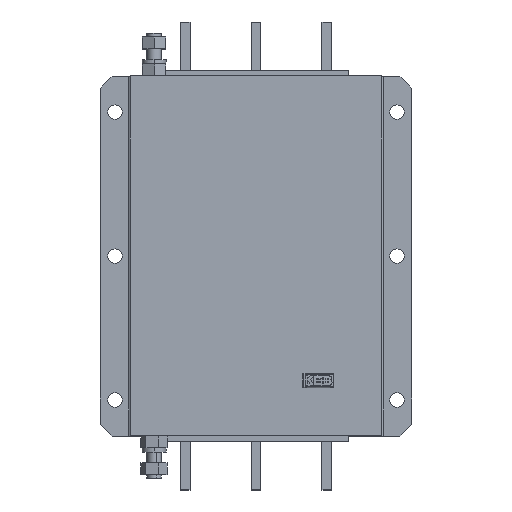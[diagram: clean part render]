
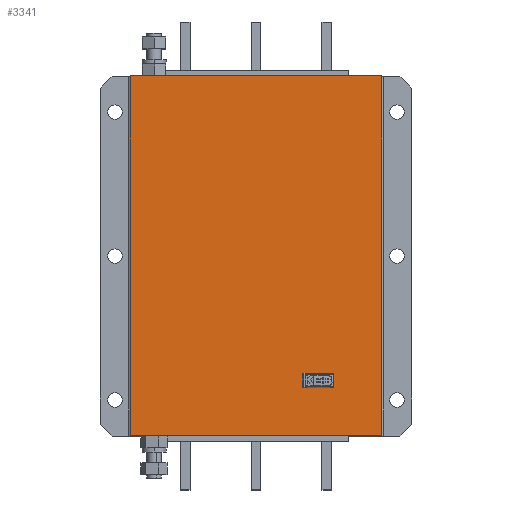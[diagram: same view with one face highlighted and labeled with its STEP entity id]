
A CAD part, top view. The second image highlights one B-rep face of the part: STEP entity #3341.
In plain terms, the highlighted planar face has unit normal (0, 0, 1).
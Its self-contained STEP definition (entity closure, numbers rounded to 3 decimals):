
#54 = CARTESIAN_POINT ( 'NONE',  ( 40., -252.25, 135. ) ) ;
#205 = CARTESIAN_POINT ( 'NONE',  ( -105., -304.25, 135. ) ) ;
#206 = CARTESIAN_POINT ( 'NONE',  ( 65., -263.25, 135. ) ) ;
#220 = VERTEX_POINT ( 'NONE', #54 ) ;
#242 = AXIS2_PLACEMENT_3D ( 'NONE', #4308, #6047, #7221 ) ;
#296 = EDGE_CURVE ( 'NONE', #2439, #2401, #925, .T. ) ;
#307 = DIRECTION ( 'NONE',  ( -1., 0., 0. ) ) ;
#448 = VECTOR ( 'NONE', #3217, 1000. ) ;
#461 = CARTESIAN_POINT ( 'NONE',  ( 65., -263.25, 135. ) ) ;
#544 = VERTEX_POINT ( 'NONE', #6843 ) ;
#644 = DIRECTION ( 'NONE',  ( 0., 1., 0. ) ) ;
#709 = CARTESIAN_POINT ( 'NONE',  ( 64., -263.25, 135. ) ) ;
#718 = CARTESIAN_POINT ( 'NONE',  ( -105., -555.733, 135. ) ) ;
#857 = ORIENTED_EDGE ( 'NONE', *, *, #1192, .T. ) ;
#900 = EDGE_CURVE ( 'NONE', #2439, #5888, #3673, .T. ) ;
#911 = ORIENTED_EDGE ( 'NONE', *, *, #3512, .T. ) ;
#925 = LINE ( 'NONE', #4713, #2772 ) ;
#954 = EDGE_CURVE ( 'NONE', #220, #1266, #2550, .T. ) ;
#970 = CARTESIAN_POINT ( 'NONE',  ( 64., -252.25, 135. ) ) ;
#992 = VERTEX_POINT ( 'NONE', #461 ) ;
#1005 = EDGE_CURVE ( 'NONE', #5116, #220, #5481, .T. ) ;
#1036 = ORIENTED_EDGE ( 'NONE', *, *, #1857, .T. ) ;
#1192 = EDGE_CURVE ( 'NONE', #5888, #6104, #1498, .T. ) ;
#1266 = VERTEX_POINT ( 'NONE', #3766 ) ;
#1434 = EDGE_LOOP ( 'NONE', ( #3967, #1513, #857, #3133 ) ) ;
#1468 = CARTESIAN_POINT ( 'NONE',  ( 105., -555.733, 135. ) ) ;
#1475 = CARTESIAN_POINT ( 'NONE',  ( -105., -304.25, 135. ) ) ;
#1498 = LINE ( 'NONE', #1468, #7237 ) ;
#1513 = ORIENTED_EDGE ( 'NONE', *, *, #900, .T. ) ;
#1668 = CARTESIAN_POINT ( 'NONE',  ( 39., -253.25, 135. ) ) ;
#1714 = ORIENTED_EDGE ( 'NONE', *, *, #5244, .T. ) ;
#1857 = EDGE_CURVE ( 'NONE', #1266, #544, #2324, .T. ) ;
#1887 = EDGE_LOOP ( 'NONE', ( #1036, #5806, #5801, #1714, #911, #3365, #3219, #2320 ) ) ;
#1970 = AXIS2_PLACEMENT_3D ( 'NONE', #718, #2909, #2356 ) ;
#2097 = CARTESIAN_POINT ( 'NONE',  ( 40., -253.25, 135. ) ) ;
#2205 = CARTESIAN_POINT ( 'NONE',  ( 64., -264.25, 135. ) ) ;
#2320 = ORIENTED_EDGE ( 'NONE', *, *, #954, .T. ) ;
#2324 = CIRCLE ( 'NONE', #3986, 1. ) ;
#2356 = DIRECTION ( 'NONE',  ( 0., -1., 0. ) ) ;
#2401 = VERTEX_POINT ( 'NONE', #5616 ) ;
#2418 = EDGE_CURVE ( 'NONE', #2401, #6104, #7053, .T. ) ;
#2439 = VERTEX_POINT ( 'NONE', #205 ) ;
#2550 = LINE ( 'NONE', #970, #448 ) ;
#2583 = CIRCLE ( 'NONE', #6913, 1. ) ;
#2682 = CIRCLE ( 'NONE', #242, 1. ) ;
#2772 = VECTOR ( 'NONE', #3174, 1000. ) ;
#2830 = DIRECTION ( 'NONE',  ( 0., 0., -1. ) ) ;
#2877 = CARTESIAN_POINT ( 'NONE',  ( 105., -304.25, 135. ) ) ;
#2909 = DIRECTION ( 'NONE',  ( 0., 0., 1. ) ) ;
#3095 = LINE ( 'NONE', #6930, #3410 ) ;
#3133 = ORIENTED_EDGE ( 'NONE', *, *, #2418, .F. ) ;
#3174 = DIRECTION ( 'NONE',  ( 0., 1., 0. ) ) ;
#3217 = DIRECTION ( 'NONE',  ( 1., 0., 0. ) ) ;
#3219 = ORIENTED_EDGE ( 'NONE', *, *, #1005, .T. ) ;
#3341 = ADVANCED_FACE ( 'NONE', ( #3988, #6791 ), #4635, .T. ) ;
#3358 = EDGE_CURVE ( 'NONE', #544, #992, #5220, .T. ) ;
#3365 = ORIENTED_EDGE ( 'NONE', *, *, #5883, .T. ) ;
#3410 = VECTOR ( 'NONE', #307, 1000. ) ;
#3499 = VECTOR ( 'NONE', #4828, 1000. ) ;
#3512 = EDGE_CURVE ( 'NONE', #3934, #3755, #2682, .T. ) ;
#3665 = DIRECTION ( 'NONE',  ( 0., 1., 0. ) ) ;
#3673 = LINE ( 'NONE', #1475, #3499 ) ;
#3755 = VERTEX_POINT ( 'NONE', #6155 ) ;
#3766 = CARTESIAN_POINT ( 'NONE',  ( 64., -252.25, 135. ) ) ;
#3934 = VERTEX_POINT ( 'NONE', #4199 ) ;
#3967 = ORIENTED_EDGE ( 'NONE', *, *, #296, .F. ) ;
#3986 = AXIS2_PLACEMENT_3D ( 'NONE', #6625, #7143, #6008 ) ;
#3988 = FACE_OUTER_BOUND ( 'NONE', #1434, .T. ) ;
#4199 = CARTESIAN_POINT ( 'NONE',  ( 40., -264.25, 135. ) ) ;
#4246 = DIRECTION ( 'NONE',  ( 1., 0., 0. ) ) ;
#4308 = CARTESIAN_POINT ( 'NONE',  ( 40., -263.25, 135. ) ) ;
#4519 = DIRECTION ( 'NONE',  ( -1., 0., 0. ) ) ;
#4566 = LINE ( 'NONE', #5665, #4585 ) ;
#4585 = VECTOR ( 'NONE', #644, 1000. ) ;
#4635 = PLANE ( 'NONE',  #1970 ) ;
#4713 = CARTESIAN_POINT ( 'NONE',  ( -105., -555.733, 135. ) ) ;
#4790 = EDGE_CURVE ( 'NONE', #992, #5826, #2583, .T. ) ;
#4828 = DIRECTION ( 'NONE',  ( 1., 0., 0. ) ) ;
#4957 = CARTESIAN_POINT ( 'NONE',  ( 105., -4.25, 135. ) ) ;
#4994 = DIRECTION ( 'NONE',  ( 0., 0., -1. ) ) ;
#5116 = VERTEX_POINT ( 'NONE', #1668 ) ;
#5126 = AXIS2_PLACEMENT_3D ( 'NONE', #2097, #4994, #6637 ) ;
#5220 = LINE ( 'NONE', #206, #6654 ) ;
#5244 = EDGE_CURVE ( 'NONE', #5826, #3934, #3095, .T. ) ;
#5246 = VECTOR ( 'NONE', #4246, 1000. ) ;
#5481 = CIRCLE ( 'NONE', #5126, 1. ) ;
#5616 = CARTESIAN_POINT ( 'NONE',  ( -105., -4.25, 135. ) ) ;
#5630 = DIRECTION ( 'NONE',  ( 0., -1., 0. ) ) ;
#5665 = CARTESIAN_POINT ( 'NONE',  ( 39., -263.25, 135. ) ) ;
#5801 = ORIENTED_EDGE ( 'NONE', *, *, #4790, .T. ) ;
#5806 = ORIENTED_EDGE ( 'NONE', *, *, #3358, .T. ) ;
#5826 = VERTEX_POINT ( 'NONE', #2205 ) ;
#5851 = CARTESIAN_POINT ( 'NONE',  ( -105., -4.25, 135. ) ) ;
#5883 = EDGE_CURVE ( 'NONE', #3755, #5116, #4566, .T. ) ;
#5888 = VERTEX_POINT ( 'NONE', #2877 ) ;
#6008 = DIRECTION ( 'NONE',  ( 1., 0., 0. ) ) ;
#6047 = DIRECTION ( 'NONE',  ( 0., 0., -1. ) ) ;
#6104 = VERTEX_POINT ( 'NONE', #4957 ) ;
#6155 = CARTESIAN_POINT ( 'NONE',  ( 39., -263.25, 135. ) ) ;
#6625 = CARTESIAN_POINT ( 'NONE',  ( 64., -253.25, 135. ) ) ;
#6637 = DIRECTION ( 'NONE',  ( 1., 0., 0. ) ) ;
#6654 = VECTOR ( 'NONE', #5630, 1000. ) ;
#6791 = FACE_BOUND ( 'NONE', #1887, .T. ) ;
#6843 = CARTESIAN_POINT ( 'NONE',  ( 65., -253.25, 135. ) ) ;
#6913 = AXIS2_PLACEMENT_3D ( 'NONE', #709, #2830, #4519 ) ;
#6930 = CARTESIAN_POINT ( 'NONE',  ( 64., -264.25, 135. ) ) ;
#7053 = LINE ( 'NONE', #5851, #5246 ) ;
#7143 = DIRECTION ( 'NONE',  ( 0., 0., -1. ) ) ;
#7221 = DIRECTION ( 'NONE',  ( 1., 0., 0. ) ) ;
#7237 = VECTOR ( 'NONE', #3665, 1000. ) ;
